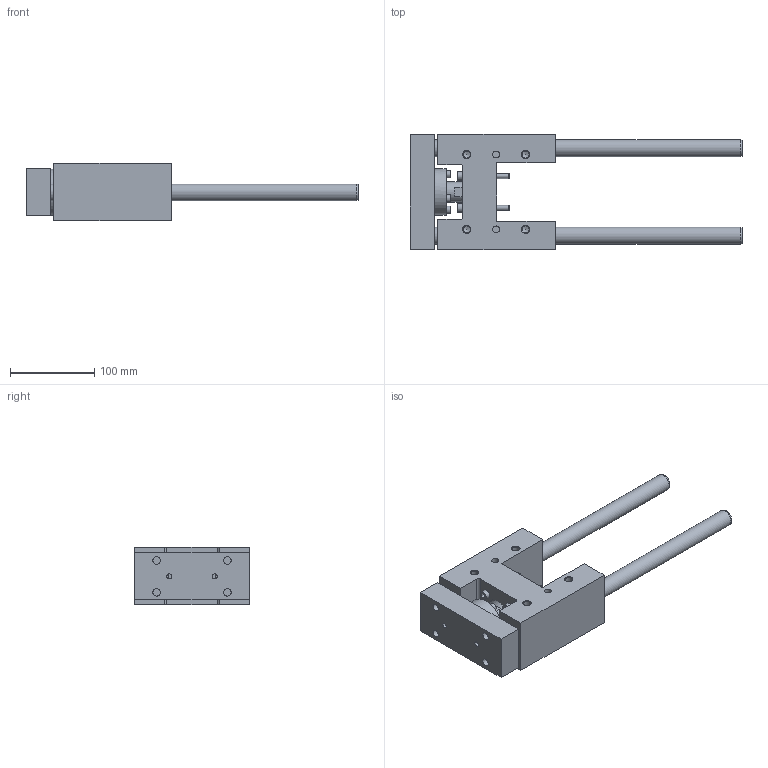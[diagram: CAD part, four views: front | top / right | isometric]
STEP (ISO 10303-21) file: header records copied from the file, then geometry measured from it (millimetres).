
FILE_DESCRIPTION( ( 'STEP AP214' ), '1' );
FILE_NAME( 'U:/Etudes/Top Solid/BIBLIO 3D AVM/TOP/PNEUMATIQUE/GUIDAGES/Type 32 (en H)/R_Renforcée/325R4_30.step', '2005-05-27T08:56:34', ( ' ' ), ( ' ' ), 'XStep 1.0', ' ', ' ' );
FILE_SCHEMA( ( 'automotive_design' ) );
Length unit declared in the file: metre
Products named in the file (2): 1; 2
Bounding box: 395 x 137 x 69 mm (x, y, z)
Volume: 1194392.2 mm3; surface area: 193450.4 mm2
Topology: 2 solids, 7 shells, 223 faces, 504 edges, 337 vertices
Faces by surface type: plane 128, cylinder 74, cone 21
Full cylindrical faces by diameter (mm): 5 x8, 6 x10, 6.5 x8, 6.647 x4, 8 x2, 8.376 x8, 8.5 x4, 9 x4, 10 x4, 10.2 x4, 10.647 x2, 15 x4, 20 x4, 24 x1, 26 x1, 34 x1, 35 x1, 37 x1, 55 x1
Entity records: 7481 total; most frequent: CARTESIAN_POINT 1145, DIRECTION 956, ORIENTED_EDGE 724, EDGE_LOOP 386, AXIS2_PLACEMENT_3D 377, EDGE_CURVE 362, FACE_OUTER_BOUND 295, VERTEX_POINT 294
